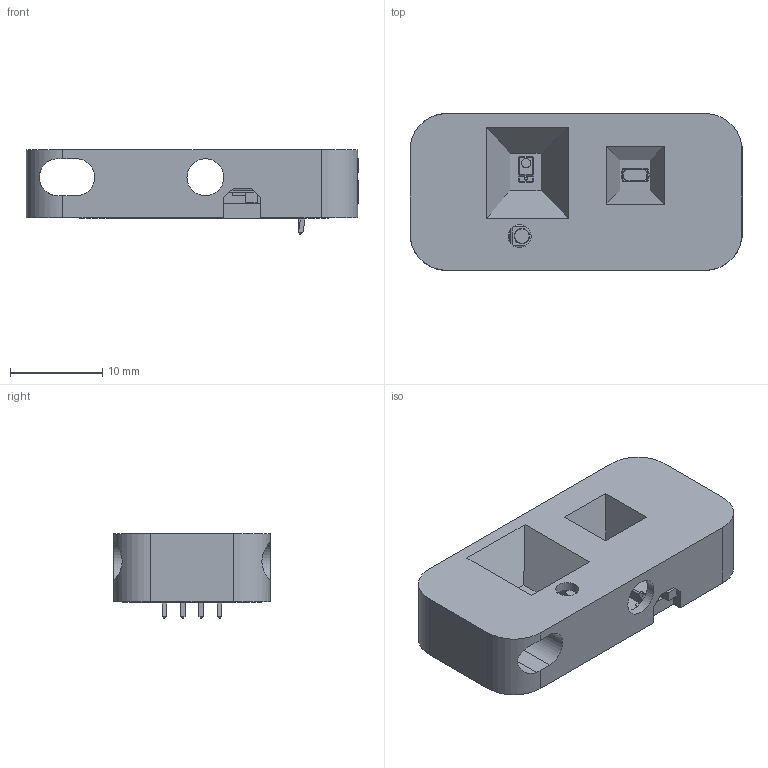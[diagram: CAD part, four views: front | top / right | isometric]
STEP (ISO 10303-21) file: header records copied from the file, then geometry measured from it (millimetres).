
FILE_DESCRIPTION(/* description */ (''),/* implementation_level */ '2;1');
FILE_NAME(/* name */ 'CRL asm v10.step',/* time_stamp */ '2024-09-24T07:18:05-05:00',/* author */ (''),/* organization */ (''),/* preprocessor_version */ 'ST-DEVELOPER v20',/* originating_system */ 'Autodesk Translation Framework v13.20.0.188',/* authorisation */ '');
FILE_SCHEMA (('AUTOMOTIVE_DESIGN { 1 0 10303 214 3 1 1 }'));
Length unit declared in the file: millimetre
Products named in the file (18): CRL asm; Color Rangefinder Case; VCSEL Sensor 1; D_SOD-323; D_SOD_323; SW_SPDT_MINI; SW_SPDT_MINI v2; SW-Tactile; VGsT-SW1; QFN-32-1EP_5x5mm_P0.5mm_EP3.45x3.45mm; QFN-32-1EP_5x5mm_Pitch0.5mm; 158301260A; 1583012xxA; APDS-9999; APDS-9999_1; JST_PH_S4B-PH-K_1x04_P2.00mm_Horizontal; JST_S4B_PH_K; VCSEL Sensor_PCB
Assembly tree (17 placements, depth 5):
  CRL asm
    Color Rangefinder Case
      VCSEL Sensor 1
        D_SOD-323
          D_SOD_323
        SW_SPDT_MINI
          SW_SPDT_MINI v2
        SW-Tactile
          VGsT-SW1
        QFN-32-1EP_5x5mm_P0.5mm_EP3.45x3.45mm
          QFN-32-1EP_5x5mm_Pitch0.5mm
        158301260A
          1583012xxA
        APDS-9999
          APDS-9999_1
        JST_PH_S4B-PH-K_1x04_P2.00mm_Horizontal
          JST_S4B_PH_K
        VCSEL Sensor_PCB
Bounding box: 36 x 17 x 9.2 mm (x, y, z)
Volume: 2270.2 mm3; surface area: 4572.3 mm2
Topology: 22 solids, 22 shells, 1469 faces, 3911 edges, 2527 vertices
Faces by surface type: plane 1116, cylinder 269, bspline 50, sphere 24, cone 9, torus 1
Full cylindrical faces by diameter (mm): 0.3 x1, 0.375 x4, 0.5 x1, 0.75 x4, 0.773 x2, 0.991 x3, 1 x1, 1.66 x1, 1.7 x1, 2.5 x1, 4 x2
Entity records: 47137 total; most frequent: CARTESIAN_POINT 9227, ORIENTED_EDGE 7822, DIRECTION 7423, EDGE_CURVE 3911, LINE 3247, VECTOR 3247, VERTEX_POINT 2527, AXIS2_PLACEMENT_3D 2088
